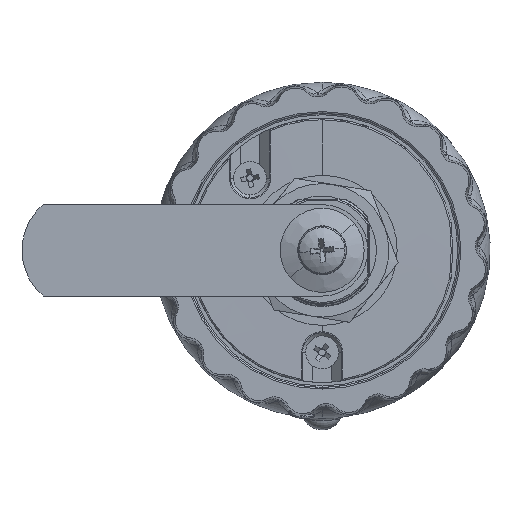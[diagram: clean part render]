
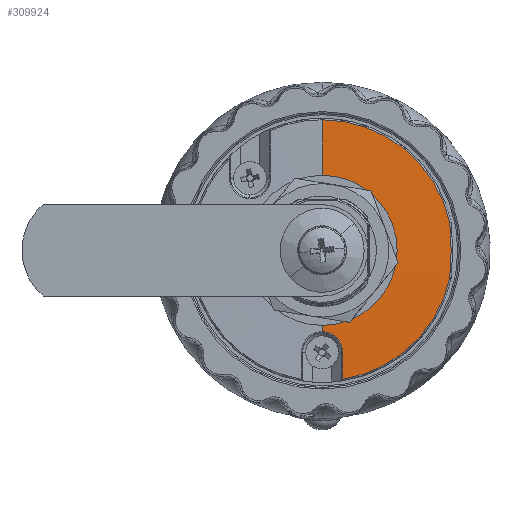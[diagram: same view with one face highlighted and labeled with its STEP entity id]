
A CAD part, front view. The second image highlights one B-rep face of the part: STEP entity #309924.
In plain terms, the highlighted conical face has half-angle 89.5 degrees and reference radius 12.5 mm.
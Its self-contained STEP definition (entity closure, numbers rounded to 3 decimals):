
#5097 = ORIENTED_EDGE ( 'NONE', *, *, #229966, .T. ) ;
#10477 = CARTESIAN_POINT ( 'NONE',  ( 2.723, 19.473, -14.903 ) ) ;
#10687 = CARTESIAN_POINT ( 'NONE',  ( 21.502, 19.529, 0. ) ) ;
#11511 = CARTESIAN_POINT ( 'NONE',  ( 3.414, 19.49, -16.775 ) ) ;
#20326 = EDGE_CURVE ( 'NONE', #211565, #75139, #260193, .T. ) ;
#22345 = CARTESIAN_POINT ( 'NONE',  ( 21.261, 19.531, -4.597 ) ) ;
#22902 = DIRECTION ( 'NONE',  ( 0., 0., -1. ) ) ;
#29492 = ORIENTED_EDGE ( 'NONE', *, *, #100762, .T. ) ;
#34015 = CARTESIAN_POINT ( 'NONE',  ( 3.412, 19.492, -17.002 ) ) ;
#34819 = CARTESIAN_POINT ( 'NONE',  ( 3.396, 19.508, -18.835 ) ) ;
#35060 = CARTESIAN_POINT ( 'NONE',  ( 3.309, 19.484, -16.111 ) ) ;
#36099 = CARTESIAN_POINT ( 'NONE',  ( 2.971, 19.477, -15.279 ) ) ;
#36815 = CARTESIAN_POINT ( 'NONE',  ( 0., 19.45, 0. ) ) ;
#36911 = CARTESIAN_POINT ( 'NONE',  ( 3.385, 19.519, -20.164 ) ) ;
#37143 = CARTESIAN_POINT ( 'NONE',  ( 2.265, 19.468, -14.409 ) ) ;
#38125 = DIRECTION ( 'NONE',  ( 0., 0.009, -1. ) ) ;
#42969 = DIRECTION ( 'NONE',  ( 0., 0., -1. ) ) ;
#43783 = CARTESIAN_POINT ( 'NONE',  ( 0., 19.45, 12.5 ) ) ;
#46931 = CARTESIAN_POINT ( 'NONE',  ( 21.502, 19.529, 0. ) ) ;
#49434 = VERTEX_POINT ( 'NONE', #138781 ) ;
#59614 = CARTESIAN_POINT ( 'NONE',  ( 1.106, 19.461, -13.734 ) ) ;
#60319 = DIRECTION ( 'NONE',  ( 0., 1., 0. ) ) ;
#62968 = CARTESIAN_POINT ( 'NONE',  ( 0., 19.459, -13.558 ) ) ;
#69375 = CARTESIAN_POINT ( 'NONE',  ( 21.381, 19.529, 2.302 ) ) ;
#75139 = VERTEX_POINT ( 'NONE', #105858 ) ;
#83978 = CARTESIAN_POINT ( 'NONE',  ( 3.379, 19.525, -20.827 ) ) ;
#93978 = CARTESIAN_POINT ( 'NONE',  ( 21.301, 19.53, 3.832 ) ) ;
#93997 = CARTESIAN_POINT ( 'NONE',  ( 21.341, 19.529, -3.067 ) ) ;
#95594 = DIRECTION ( 'NONE',  ( 0., -1., 0. ) ) ;
#96283 = FACE_OUTER_BOUND ( 'NONE', #164004, .T. ) ;
#100762 = EDGE_CURVE ( 'NONE', #248774, #153449, #109461, .T. ) ;
#105617 = CARTESIAN_POINT ( 'NONE',  ( 1.716, 19.464, -14.013 ) ) ;
#105802 = ORIENTED_EDGE ( 'NONE', *, *, #199040, .T. ) ;
#105858 = CARTESIAN_POINT ( 'NONE',  ( 0., 19.531, 21.752 ) ) ;
#106609 = CARTESIAN_POINT ( 'NONE',  ( 0., 19.45, -12.5 ) ) ;
#106668 = CARTESIAN_POINT ( 'NONE',  ( 3.075, 19.479, -15.477 ) ) ;
#109461 = B_SPLINE_CURVE_WITH_KNOTS ( 'NONE', 3,
 ( #22345, #122751, #93997, #289469, #168681, #193263, #46931 ),
 .UNSPECIFIED., .F., .F.,
 ( 4, 3, 4 ),
 ( 0., 0.002, 0.005 ),
 .UNSPECIFIED. ) ;
#109801 = CARTESIAN_POINT ( 'NONE',  ( 0.888, 19.46, -13.668 ) ) ;
#110616 = CARTESIAN_POINT ( 'NONE',  ( 3.41, 19.494, -17.169 ) ) ;
#112712 = CARTESIAN_POINT ( 'NONE',  ( 3.412, 19.492, -17.002 ) ) ;
#114241 = AXIS2_PLACEMENT_3D ( 'NONE', #187189, #191364, #42969 ) ;
#115308 = EDGE_CURVE ( 'NONE', #254217, #170698, #285006, .T. ) ;
#122730 = CARTESIAN_POINT ( 'NONE',  ( 21.462, 19.528, 0.767 ) ) ;
#122751 = CARTESIAN_POINT ( 'NONE',  ( 21.301, 19.53, -3.832 ) ) ;
#125323 = DIRECTION ( 'NONE',  ( 0., 0.009, 1. ) ) ;
#126489 = VECTOR ( 'NONE', #125323, 1000. ) ;
#128008 = B_SPLINE_CURVE_WITH_KNOTS ( 'NONE', 3,
 ( #200698, #298975, #183444, #109801, #59614, #181345, #105617, #132272, #37143, #279653, #10477, #36099, #106668, #179260, #35060, #208070, #11511, #34015 ),
 .UNSPECIFIED., .F., .F.,
 ( 4, 2, 2, 2, 2, 2, 2, 2, 4 ),
 ( 0.005, 0.006, 0.007, 0.007, 0.008, 0.009, 0.009, 0.01, 0.011 ),
 .UNSPECIFIED. ) ;
#132272 = CARTESIAN_POINT ( 'NONE',  ( 2.091, 19.467, -14.265 ) ) ;
#137259 = CARTESIAN_POINT ( 'NONE',  ( 3.407, 19.497, -17.502 ) ) ;
#138781 = CARTESIAN_POINT ( 'NONE',  ( 3.373, 19.531, -21.489 ) ) ;
#143421 = ORIENTED_EDGE ( 'NONE', *, *, #298886, .T. ) ;
#147856 = CIRCLE ( 'NONE', #114241, 21.752 ) ;
#153449 = VERTEX_POINT ( 'NONE', #10687 ) ;
#157319 = CARTESIAN_POINT ( 'NONE',  ( 0., 19.45, 12.5 ) ) ;
#159312 = ORIENTED_EDGE ( 'NONE', *, *, #20326, .T. ) ;
#164004 = EDGE_LOOP ( 'NONE', ( #105802, #230074, #237669, #165599, #143421, #29492, #5097, #159312, #179238 ) ) ;
#164914 = CONICAL_SURFACE ( 'NONE', #296150, 12.5, 1.562 ) ;
#165599 = ORIENTED_EDGE ( 'NONE', *, *, #173471, .T. ) ;
#168681 = CARTESIAN_POINT ( 'NONE',  ( 21.421, 19.528, -1.535 ) ) ;
#168789 = CARTESIAN_POINT ( 'NONE',  ( 21.261, 19.531, -4.597 ) ) ;
#170698 = VERTEX_POINT ( 'NONE', #62968 ) ;
#173471 = EDGE_CURVE ( 'NONE', #193381, #49434, #217775, .T. ) ;
#179238 = ORIENTED_EDGE ( 'NONE', *, *, #255251, .F. ) ;
#179260 = CARTESIAN_POINT ( 'NONE',  ( 3.244, 19.482, -15.892 ) ) ;
#181345 = CARTESIAN_POINT ( 'NONE',  ( 1.519, 19.463, -13.907 ) ) ;
#183208 = CARTESIAN_POINT ( 'NONE',  ( 3.402, 19.502, -18.169 ) ) ;
#183444 = CARTESIAN_POINT ( 'NONE',  ( 0.447, 19.459, -13.58 ) ) ;
#187189 = CARTESIAN_POINT ( 'NONE',  ( 0., 19.531, 0. ) ) ;
#190322 = DIRECTION ( 'NONE',  ( 0., 1., 0. ) ) ;
#191364 = DIRECTION ( 'NONE',  ( 0., -1., 0. ) ) ;
#193263 = CARTESIAN_POINT ( 'NONE',  ( 21.462, 19.528, -0.767 ) ) ;
#193381 = VERTEX_POINT ( 'NONE', #301111 ) ;
#199040 = EDGE_CURVE ( 'NONE', #312515, #254217, #203235, .T. ) ;
#200698 = CARTESIAN_POINT ( 'NONE',  ( 0., 19.459, -13.558 ) ) ;
#203235 = CIRCLE ( 'NONE', #222389, 12.5 ) ;
#208070 = CARTESIAN_POINT ( 'NONE',  ( 3.393, 19.488, -16.552 ) ) ;
#211565 = VERTEX_POINT ( 'NONE', #251345 ) ;
#215781 = CARTESIAN_POINT ( 'NONE',  ( 21.421, 19.528, 1.535 ) ) ;
#217775 = B_SPLINE_CURVE_WITH_KNOTS ( 'NONE', 3,
 ( #112712, #110616, #280458, #137259, #183208, #34819, #233428, #36911, #83978, #307182 ),
 .UNSPECIFIED., .F., .F.,
 ( 4, 3, 3, 4 ),
 ( 0., 0.001, 0.003, 0.004 ),
 .UNSPECIFIED. ) ;
#219532 = CARTESIAN_POINT ( 'NONE',  ( 0., 19.45, -12.5 ) ) ;
#222389 = AXIS2_PLACEMENT_3D ( 'NONE', #311142, #190322, #312191 ) ;
#229966 = EDGE_CURVE ( 'NONE', #153449, #211565, #231232, .T. ) ;
#230074 = ORIENTED_EDGE ( 'NONE', *, *, #115308, .T. ) ;
#231232 = B_SPLINE_CURVE_WITH_KNOTS ( 'NONE', 3,
 ( #268000, #122730, #215781, #69375, #240299, #93978, #264831 ),
 .UNSPECIFIED., .F., .F.,
 ( 4, 3, 4 ),
 ( 0., 0.002, 0.005 ),
 .UNSPECIFIED. ) ;
#233428 = CARTESIAN_POINT ( 'NONE',  ( 3.39, 19.514, -19.502 ) ) ;
#237669 = ORIENTED_EDGE ( 'NONE', *, *, #275407, .T. ) ;
#240299 = CARTESIAN_POINT ( 'NONE',  ( 21.341, 19.529, 3.067 ) ) ;
#241900 = CARTESIAN_POINT ( 'NONE',  ( 0., 19.531, 0. ) ) ;
#248774 = VERTEX_POINT ( 'NONE', #168789 ) ;
#251345 = CARTESIAN_POINT ( 'NONE',  ( 21.261, 19.531, 4.597 ) ) ;
#254217 = VERTEX_POINT ( 'NONE', #219532 ) ;
#255251 = EDGE_CURVE ( 'NONE', #312515, #75139, #271757, .T. ) ;
#257861 = DIRECTION ( 'NONE',  ( 0., 0., 1. ) ) ;
#260193 = CIRCLE ( 'NONE', #276417, 21.752 ) ;
#264831 = CARTESIAN_POINT ( 'NONE',  ( 21.261, 19.531, 4.597 ) ) ;
#268000 = CARTESIAN_POINT ( 'NONE',  ( 21.502, 19.529, 0. ) ) ;
#271757 = LINE ( 'NONE', #157319, #126489 ) ;
#275407 = EDGE_CURVE ( 'NONE', #170698, #193381, #128008, .T. ) ;
#276417 = AXIS2_PLACEMENT_3D ( 'NONE', #241900, #95594, #22902 ) ;
#279653 = CARTESIAN_POINT ( 'NONE',  ( 2.579, 19.471, -14.727 ) ) ;
#280458 = CARTESIAN_POINT ( 'NONE',  ( 3.409, 19.495, -17.335 ) ) ;
#285006 = LINE ( 'NONE', #106609, #308025 ) ;
#289469 = CARTESIAN_POINT ( 'NONE',  ( 21.381, 19.529, -2.302 ) ) ;
#296150 = AXIS2_PLACEMENT_3D ( 'NONE', #36815, #60319, #257861 ) ;
#298886 = EDGE_CURVE ( 'NONE', #49434, #248774, #147856, .T. ) ;
#298975 = CARTESIAN_POINT ( 'NONE',  ( 0.225, 19.459, -13.558 ) ) ;
#301111 = CARTESIAN_POINT ( 'NONE',  ( 3.412, 19.492, -17.002 ) ) ;
#307182 = CARTESIAN_POINT ( 'NONE',  ( 3.373, 19.531, -21.489 ) ) ;
#308025 = VECTOR ( 'NONE', #38125, 1000. ) ;
#309924 = ADVANCED_FACE ( 'NONE', ( #96283 ), #164914, .T. ) ;
#311142 = CARTESIAN_POINT ( 'NONE',  ( 0., 19.45, 0. ) ) ;
#312191 = DIRECTION ( 'NONE',  ( 0., 0., 1. ) ) ;
#312515 = VERTEX_POINT ( 'NONE', #43783 ) ;
